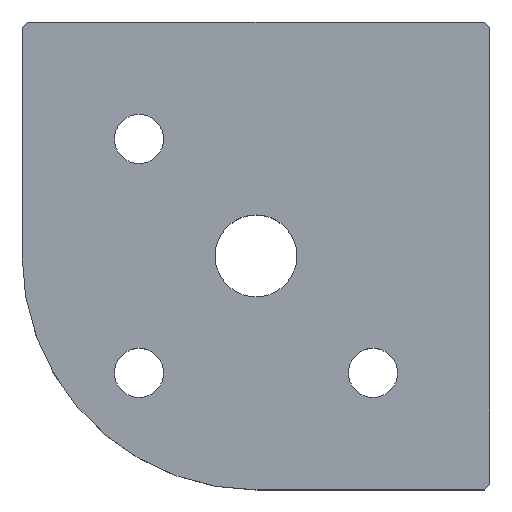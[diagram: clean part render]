
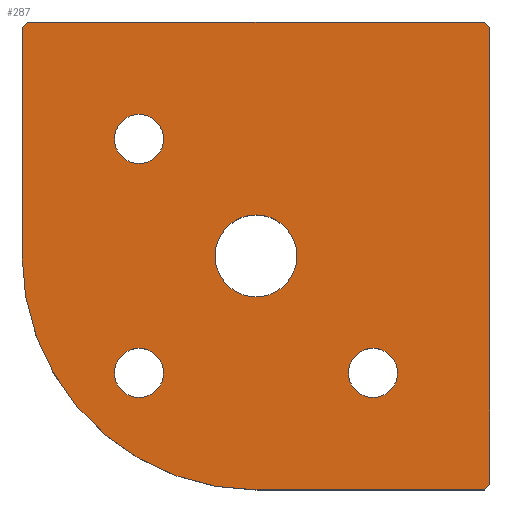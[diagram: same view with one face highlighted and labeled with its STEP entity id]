
A CAD part, top view. The second image highlights one B-rep face of the part: STEP entity #287.
In plain terms, the highlighted planar face has unit normal (0, 0, 1).
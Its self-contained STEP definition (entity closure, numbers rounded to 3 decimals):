
#24 = DIRECTION ( 'NONE',  ( 1., 0., 0. ) ) ;
#41 = ORIENTED_EDGE ( 'NONE', *, *, #289, .T. ) ;
#44 = ORIENTED_EDGE ( 'NONE', *, *, #589, .T. ) ;
#46 = CARTESIAN_POINT ( 'NONE',  ( -20., 20., 12. ) ) ;
#47 = CIRCLE ( 'NONE', #562, 4.2 ) ;
#53 = DIRECTION ( 'NONE',  ( 0.707, 0.707, 0. ) ) ;
#58 = CARTESIAN_POINT ( 'NONE',  ( 39., 40., 12. ) ) ;
#68 = VERTEX_POINT ( 'NONE', #73 ) ;
#72 = EDGE_CURVE ( 'NONE', #451, #257, #702, .T. ) ;
#73 = CARTESIAN_POINT ( 'NONE',  ( -24.2, 20., 12. ) ) ;
#76 = FACE_BOUND ( 'NONE', #862, .T. ) ;
#84 = ORIENTED_EDGE ( 'NONE', *, *, #808, .T. ) ;
#91 = DIRECTION ( 'NONE',  ( 0., 0., -1. ) ) ;
#99 = CARTESIAN_POINT ( 'NONE',  ( 40., 39., 12. ) ) ;
#107 = VERTEX_POINT ( 'NONE', #437 ) ;
#111 = CARTESIAN_POINT ( 'NONE',  ( 39., -40., 12. ) ) ;
#115 = VERTEX_POINT ( 'NONE', #767 ) ;
#119 = EDGE_CURVE ( 'NONE', #242, #472, #199, .T. ) ;
#129 = EDGE_CURVE ( 'NONE', #605, #532, #204, .T. ) ;
#130 = DIRECTION ( 'NONE',  ( 0., 0., 1. ) ) ;
#131 = CIRCLE ( 'NONE', #383, 4.2 ) ;
#132 = DIRECTION ( 'NONE',  ( -1., 0., 0. ) ) ;
#138 = DIRECTION ( 'NONE',  ( -1., 0., 0. ) ) ;
#149 = AXIS2_PLACEMENT_3D ( 'NONE', #886, #271, #132 ) ;
#158 = CARTESIAN_POINT ( 'NONE',  ( -15.8, 20., 12. ) ) ;
#165 = CIRCLE ( 'NONE', #277, 7. ) ;
#174 = CARTESIAN_POINT ( 'NONE',  ( 40., 40., 12. ) ) ;
#182 = ORIENTED_EDGE ( 'NONE', *, *, #197, .T. ) ;
#186 = EDGE_CURVE ( 'NONE', #800, #68, #837, .T. ) ;
#197 = EDGE_CURVE ( 'NONE', #544, #107, #836, .T. ) ;
#199 = LINE ( 'NONE', #486, #897 ) ;
#202 = EDGE_LOOP ( 'NONE', ( #41, #44 ) ) ;
#204 = CIRCLE ( 'NONE', #548, 4.2 ) ;
#210 = PLANE ( 'NONE',  #647 ) ;
#213 = CARTESIAN_POINT ( 'NONE',  ( -7., 0., 12. ) ) ;
#214 = FACE_BOUND ( 'NONE', #202, .T. ) ;
#224 = FACE_BOUND ( 'NONE', #245, .T. ) ;
#232 = CARTESIAN_POINT ( 'NONE',  ( -40., 39., 12. ) ) ;
#239 = VECTOR ( 'NONE', #855, 1000. ) ;
#242 = VERTEX_POINT ( 'NONE', #409 ) ;
#245 = EDGE_LOOP ( 'NONE', ( #279, #254 ) ) ;
#246 = AXIS2_PLACEMENT_3D ( 'NONE', #573, #851, #24 ) ;
#254 = ORIENTED_EDGE ( 'NONE', *, *, #393, .T. ) ;
#257 = VERTEX_POINT ( 'NONE', #58 ) ;
#265 = DIRECTION ( 'NONE',  ( -0.707, -0.707, 0. ) ) ;
#271 = DIRECTION ( 'NONE',  ( 0., 0., -1. ) ) ;
#275 = VECTOR ( 'NONE', #633, 1000. ) ;
#277 = AXIS2_PLACEMENT_3D ( 'NONE', #413, #130, #681 ) ;
#279 = ORIENTED_EDGE ( 'NONE', *, *, #129, .T. ) ;
#287 = ADVANCED_FACE ( 'NONE', ( #214, #76, #224, #354, #360 ), #210, .F. ) ;
#289 = EDGE_CURVE ( 'NONE', #528, #580, #131, .T. ) ;
#292 = CARTESIAN_POINT ( 'NONE',  ( -20., -20., 12. ) ) ;
#298 = AXIS2_PLACEMENT_3D ( 'NONE', #445, #788, #906 ) ;
#343 = DIRECTION ( 'NONE',  ( -1., 0., 0. ) ) ;
#344 = CIRCLE ( 'NONE', #298, 40. ) ;
#354 = FACE_BOUND ( 'NONE', #727, .T. ) ;
#360 = FACE_OUTER_BOUND ( 'NONE', #711, .T. ) ;
#364 = EDGE_CURVE ( 'NONE', #805, #115, #534, .T. ) ;
#383 = AXIS2_PLACEMENT_3D ( 'NONE', #780, #645, #503 ) ;
#393 = EDGE_CURVE ( 'NONE', #532, #605, #706, .T. ) ;
#409 = CARTESIAN_POINT ( 'NONE',  ( -40., 0., 12. ) ) ;
#413 = CARTESIAN_POINT ( 'NONE',  ( 0., 0., 12. ) ) ;
#426 = EDGE_CURVE ( 'NONE', #471, #257, #654, .T. ) ;
#428 = CIRCLE ( 'NONE', #585, 4.2 ) ;
#434 = ORIENTED_EDGE ( 'NONE', *, *, #72, .T. ) ;
#437 = CARTESIAN_POINT ( 'NONE',  ( 40., -39., 12. ) ) ;
#445 = CARTESIAN_POINT ( 'NONE',  ( 0., 0., 12. ) ) ;
#447 = ORIENTED_EDGE ( 'NONE', *, *, #364, .F. ) ;
#451 = VERTEX_POINT ( 'NONE', #99 ) ;
#461 = DIRECTION ( 'NONE',  ( 0., -1., 0. ) ) ;
#469 = CARTESIAN_POINT ( 'NONE',  ( -24.2, -20., 12. ) ) ;
#470 = VECTOR ( 'NONE', #265, 1000. ) ;
#471 = VERTEX_POINT ( 'NONE', #668 ) ;
#472 = VERTEX_POINT ( 'NONE', #232 ) ;
#473 = CARTESIAN_POINT ( 'NONE',  ( 20., -20., 12. ) ) ;
#474 = CARTESIAN_POINT ( 'NONE',  ( -20., -20., 12. ) ) ;
#475 = VERTEX_POINT ( 'NONE', #587 ) ;
#486 = CARTESIAN_POINT ( 'NONE',  ( -40., -40., 12. ) ) ;
#491 = DIRECTION ( 'NONE',  ( 0., 1., 0. ) ) ;
#500 = ORIENTED_EDGE ( 'NONE', *, *, #186, .T. ) ;
#501 = CARTESIAN_POINT ( 'NONE',  ( 40., -40., 12. ) ) ;
#503 = DIRECTION ( 'NONE',  ( -1., 0., 0. ) ) ;
#508 = CARTESIAN_POINT ( 'NONE',  ( 0., 0., 12. ) ) ;
#521 = EDGE_CURVE ( 'NONE', #451, #107, #530, .T. ) ;
#524 = VECTOR ( 'NONE', #461, 1000. ) ;
#528 = VERTEX_POINT ( 'NONE', #733 ) ;
#530 = LINE ( 'NONE', #174, #524 ) ;
#532 = VERTEX_POINT ( 'NONE', #760 ) ;
#533 = DIRECTION ( 'NONE',  ( 1., 0., 0. ) ) ;
#534 = CIRCLE ( 'NONE', #246, 7. ) ;
#544 = VERTEX_POINT ( 'NONE', #111 ) ;
#547 = ORIENTED_EDGE ( 'NONE', *, *, #597, .F. ) ;
#548 = AXIS2_PLACEMENT_3D ( 'NONE', #474, #823, #343 ) ;
#550 = CARTESIAN_POINT ( 'NONE',  ( 40., -39., 12. ) ) ;
#562 = AXIS2_PLACEMENT_3D ( 'NONE', #473, #764, #815 ) ;
#573 = CARTESIAN_POINT ( 'NONE',  ( 0., 0., 12. ) ) ;
#580 = VERTEX_POINT ( 'NONE', #612 ) ;
#585 = AXIS2_PLACEMENT_3D ( 'NONE', #46, #754, #685 ) ;
#587 = CARTESIAN_POINT ( 'NONE',  ( 0., -40., 12. ) ) ;
#589 = EDGE_CURVE ( 'NONE', #580, #528, #47, .T. ) ;
#597 = EDGE_CURVE ( 'NONE', #115, #805, #165, .T. ) ;
#605 = VERTEX_POINT ( 'NONE', #469 ) ;
#612 = CARTESIAN_POINT ( 'NONE',  ( 24.2, -20., 12. ) ) ;
#628 = EDGE_CURVE ( 'NONE', #471, #472, #670, .T. ) ;
#633 = DIRECTION ( 'NONE',  ( -0.707, 0.707, 0. ) ) ;
#635 = AXIS2_PLACEMENT_3D ( 'NONE', #292, #770, #138 ) ;
#636 = LINE ( 'NONE', #501, #239 ) ;
#637 = DIRECTION ( 'NONE',  ( -1., 0., 0. ) ) ;
#645 = DIRECTION ( 'NONE',  ( 0., 0., -1. ) ) ;
#647 = AXIS2_PLACEMENT_3D ( 'NONE', #508, #91, #637 ) ;
#651 = EDGE_CURVE ( 'NONE', #68, #800, #428, .T. ) ;
#654 = LINE ( 'NONE', #738, #867 ) ;
#668 = CARTESIAN_POINT ( 'NONE',  ( -39., 40., 12. ) ) ;
#670 = LINE ( 'NONE', #822, #470 ) ;
#681 = DIRECTION ( 'NONE',  ( 1., 0., 0. ) ) ;
#685 = DIRECTION ( 'NONE',  ( -1., 0., 0. ) ) ;
#687 = ORIENTED_EDGE ( 'NONE', *, *, #426, .F. ) ;
#702 = LINE ( 'NONE', #781, #275 ) ;
#706 = CIRCLE ( 'NONE', #635, 4.2 ) ;
#711 = EDGE_LOOP ( 'NONE', ( #821, #84, #877, #182, #903, #434, #687, #772 ) ) ;
#724 = ORIENTED_EDGE ( 'NONE', *, *, #651, .T. ) ;
#727 = EDGE_LOOP ( 'NONE', ( #547, #447 ) ) ;
#733 = CARTESIAN_POINT ( 'NONE',  ( 15.8, -20., 12. ) ) ;
#736 = EDGE_CURVE ( 'NONE', #544, #475, #636, .T. ) ;
#738 = CARTESIAN_POINT ( 'NONE',  ( -40., 40., 12. ) ) ;
#750 = VECTOR ( 'NONE', #53, 1000. ) ;
#754 = DIRECTION ( 'NONE',  ( 0., 0., -1. ) ) ;
#760 = CARTESIAN_POINT ( 'NONE',  ( -15.8, -20., 12. ) ) ;
#764 = DIRECTION ( 'NONE',  ( 0., 0., -1. ) ) ;
#767 = CARTESIAN_POINT ( 'NONE',  ( 7., 0., 12. ) ) ;
#770 = DIRECTION ( 'NONE',  ( 0., 0., -1. ) ) ;
#772 = ORIENTED_EDGE ( 'NONE', *, *, #628, .T. ) ;
#780 = CARTESIAN_POINT ( 'NONE',  ( 20., -20., 12. ) ) ;
#781 = CARTESIAN_POINT ( 'NONE',  ( 39., 40., 12. ) ) ;
#788 = DIRECTION ( 'NONE',  ( 0., 0., 1. ) ) ;
#800 = VERTEX_POINT ( 'NONE', #158 ) ;
#805 = VERTEX_POINT ( 'NONE', #213 ) ;
#808 = EDGE_CURVE ( 'NONE', #242, #475, #344, .T. ) ;
#815 = DIRECTION ( 'NONE',  ( -1., 0., 0. ) ) ;
#821 = ORIENTED_EDGE ( 'NONE', *, *, #119, .F. ) ;
#822 = CARTESIAN_POINT ( 'NONE',  ( -40., 39., 12. ) ) ;
#823 = DIRECTION ( 'NONE',  ( 0., 0., -1. ) ) ;
#836 = LINE ( 'NONE', #550, #750 ) ;
#837 = CIRCLE ( 'NONE', #149, 4.2 ) ;
#851 = DIRECTION ( 'NONE',  ( 0., 0., 1. ) ) ;
#855 = DIRECTION ( 'NONE',  ( -1., 0., 0. ) ) ;
#862 = EDGE_LOOP ( 'NONE', ( #724, #500 ) ) ;
#867 = VECTOR ( 'NONE', #533, 1000. ) ;
#877 = ORIENTED_EDGE ( 'NONE', *, *, #736, .F. ) ;
#886 = CARTESIAN_POINT ( 'NONE',  ( -20., 20., 12. ) ) ;
#897 = VECTOR ( 'NONE', #491, 1000. ) ;
#903 = ORIENTED_EDGE ( 'NONE', *, *, #521, .F. ) ;
#906 = DIRECTION ( 'NONE',  ( -1., 0., 0. ) ) ;
